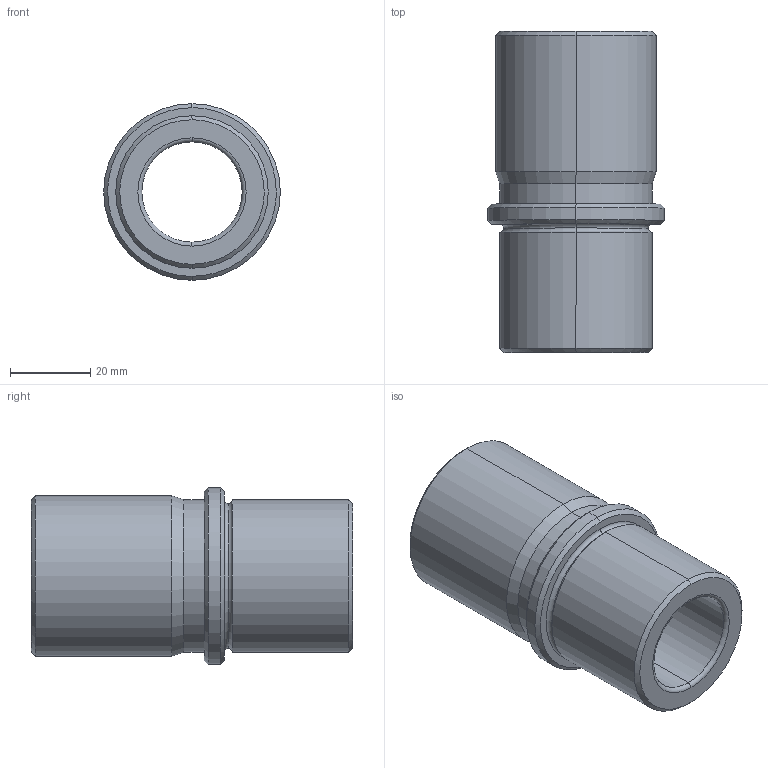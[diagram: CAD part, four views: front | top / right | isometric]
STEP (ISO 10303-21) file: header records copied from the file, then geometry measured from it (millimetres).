
FILE_DESCRIPTION(('CATIA V5 STEP Exchange'),'2;1');
FILE_NAME('C:\Users\Utente\Desktop\IO LAVORO\3D X SITO CF\X SITO\CF 450\CF 450 25x80.stp','2020-12-27T17:56:23+00:00',('none'),('none'),'CATIA Version 5 Release 20 GA (IN-10)','CATIA V5 STEP AP203','none');
FILE_SCHEMA(('CONFIG_CONTROL_DESIGN'));
Length unit declared in the file: millimetre
Products named in the file (1): CF 450 25x80
Bounding box: 44 x 80 x 44 mm (x, y, z)
Volume: 57387.6 mm3; surface area: 18105.4 mm2
Topology: 1 solids, 1 shells, 32 faces, 98 edges, 70 vertices
Faces by surface type: cylinder 10, cone 10, torus 8, plane 4
Entity records: 1236 total; most frequent: CARTESIAN_POINT 313, ORIENTED_EDGE 196, DIRECTION 154, AXIS2_PLACEMENT_3D 103, EDGE_CURVE 98, CIRCLE 70, VERTEX_POINT 70, EDGE_LOOP 36
